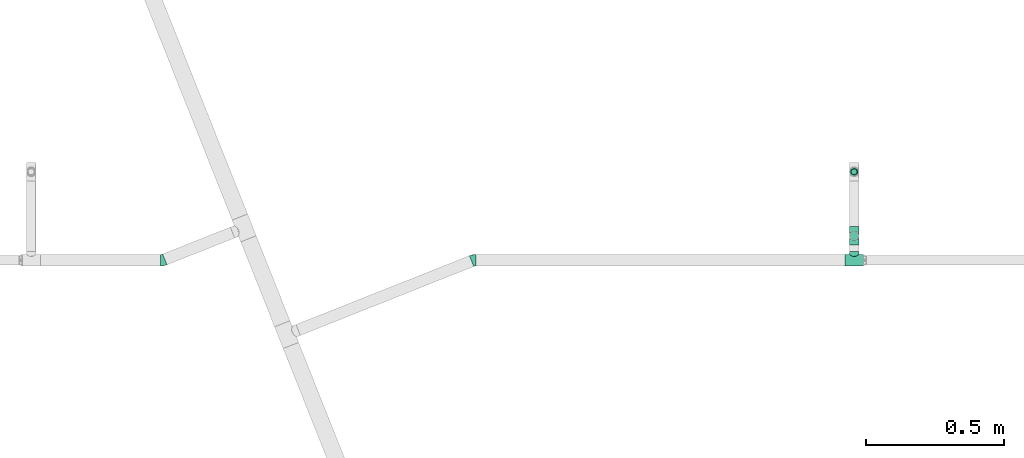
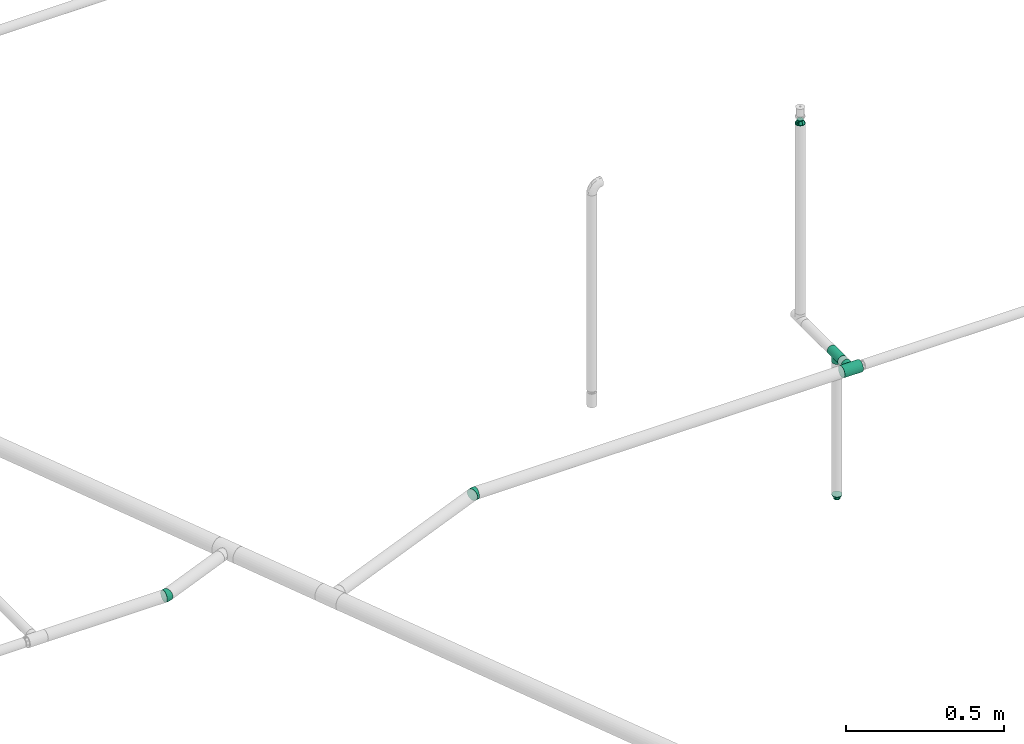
# One storey, part 36 of 94: 6 flow fittings.
"""IFC2X3 building model written with IfcOpenShell, lengths in millimetres."""

import ifcopenshell
import ifcopenshell.guid

model = None  # the IFC model being written
_history = None  # IfcOwnerHistory: only IFC2X3 demands one
_inside = {}  # id of a spatial element -> (the spatial element, [elements in it])
_under = {}  # id of a project, library or spatial element -> (it, [spatial elements below it])
_declared = {}  # id of a project -> (the project, [libraries it declares])
_typed = {}  # id of a type object -> (the type object, [elements of that type])
_made_of = {}  # id of a material, layer set ... -> (it, [elements and type objects made of it])


def new_model(schema):
    """Start an empty IFC model of exactly this schema.

    Asked for "IFC4X3", IfcOpenShell would pick the latest addendum, in which some entities
    have other attributes; the version numbers below select the first issue.
    IFC2X3 requires an IfcOwnerHistory on every rooted entity: one is made here for all.
    """
    global model, _history
    if schema == "IFC4X3":
        model = ifcopenshell.file(schema_version=(4, 3, 0, 0))
    else:
        model = ifcopenshell.file(schema=schema)
    _inside.clear()
    _under.clear()
    _declared.clear()
    _typed.clear()
    _made_of.clear()
    _history = None
    if model.schema == "IFC2X3":
        org = make("IfcOrganization", Name="unknown")
        user = make(
            "IfcPersonAndOrganization",
            ThePerson=make("IfcPerson", FamilyName="unknown"),
            TheOrganization=org,
        )
        app = make(
            "IfcApplication",
            ApplicationDeveloper=org,
            Version="unknown",
            ApplicationFullName="unknown",
            ApplicationIdentifier="unknown",
        )
        _history = make(
            "IfcOwnerHistory",
            OwningUser=user,
            OwningApplication=app,
            ChangeAction="ADDED",
            CreationDate=0,
        )
    return model


def make(cls, **values):
    """One entity of the class cls with the attributes given. An attribute that is None is left unset."""
    return model.create_entity(
        cls, **{name: value for name, value in values.items() if value is not None}
    )


def entity(cls, *values):
    """Any entity or typed value of the class cls, its attributes in the order of the schema. None: left unset."""
    e = model.create_entity(cls)
    for i, value in enumerate(values):
        if value is not None:
            e[i] = value
    return e


def rooted(cls, **values):
    """An entity with a GlobalId (a new one), such as an element, a storey or a relation."""
    return make(cls, GlobalId=ifcopenshell.guid.new(), OwnerHistory=_history, **values)


def si_unit(unit_type, name, prefix=None):
    """IfcSIUnit, for example si_unit("LENGTHUNIT", "METRE", prefix="MILLI")."""
    return make("IfcSIUnit", UnitType=unit_type, Prefix=prefix, Name=name)


def converted_unit(unit_type, name, factor, base, dimensions=None, offset=None):
    """IfcConversionBasedUnit, such as the inch: factor (a typed value) times the base unit."""
    return make(
        "IfcConversionBasedUnit"
        if offset is None
        else "IfcConversionBasedUnitWithOffset",
        ConversionOffset=offset,
        Dimensions=None
        if dimensions is None
        else entity("IfcDimensionalExponents", *dimensions),
        UnitType=unit_type,
        Name=name,
        ConversionFactor=make(
            "IfcMeasureWithUnit", ValueComponent=factor, UnitComponent=base
        ),
    )


def derived_unit(unit_type, elements):
    """IfcDerivedUnit: a product of units, each with its exponent."""
    return make(
        "IfcDerivedUnit",
        Elements=[
            make("IfcDerivedUnitElement", Unit=unit, Exponent=power)
            for unit, power in elements
        ],
        UnitType=unit_type,
    )


def assignment(units):
    """IfcUnitAssignment: the units of a project."""
    return None if units is None else make("IfcUnitAssignment", Units=units)


def point(xyz):
    """IfcCartesianPoint."""
    return None if xyz is None else make("IfcCartesianPoint", Coordinates=xyz)


def direction(xyz):
    """IfcDirection."""
    return None if xyz is None else make("IfcDirection", DirectionRatios=xyz)


def frame(location, z_axis=None, x_axis=None):
    """IfcAxis2Placement3D, a coordinate frame: its origin and axes. An axis left out is left unset."""
    return make(
        "IfcAxis2Placement3D",
        Location=point(location),
        Axis=direction(z_axis),
        RefDirection=direction(x_axis),
    )


def origin_with_axes():
    """The frame at (0, 0, 0) with the z axis (0, 0, 1) and the x axis (1, 0, 0) written out."""
    return frame((0.0, 0.0, 0.0), z_axis=(0.0, 0.0, 1.0), x_axis=(1.0, 0.0, 0.0))


def place(relative_to, where):
    """IfcLocalPlacement: puts the frame where relative to a parent placement (None: the world)."""
    return make(
        "IfcLocalPlacement", PlacementRelTo=relative_to, RelativePlacement=where
    )


def context(
    kind, dimensions, precision=None, world=None, true_north=None, identifier=None
):
    """IfcGeometricRepresentationContext, for example the 3D "Model" context."""
    return make(
        "IfcGeometricRepresentationContext",
        ContextIdentifier=identifier,
        ContextType=kind,
        CoordinateSpaceDimension=dimensions,
        Precision=precision,
        WorldCoordinateSystem=world,
        TrueNorth=true_north,
    )


def subcontext(parent, identifier, kind, view, scale=None):
    """IfcGeometricRepresentationSubContext, for example "Body" below "Model"."""
    return make(
        "IfcGeometricRepresentationSubContext",
        ContextIdentifier=identifier,
        ContextType=kind,
        ParentContext=parent,
        TargetScale=scale,
        TargetView=view,
    )


def project(units=None, contexts=None):
    """IfcProject with its units and contexts."""
    return rooted(
        "IfcProject",
        Name="project",
        RepresentationContexts=contexts,
        UnitsInContext=assignment(units),
    )


def spatial(cls, under=None, at=None, **own):
    """A site, building, storey or space (cls), placed at a placement, below another one or the project."""
    s = rooted(cls, ObjectPlacement=at, **own)
    if under is not None:
        _under.setdefault(under.id(), (under, []))[1].append(s)
    return s


def faces_of(points, faces, orient=None, outer=None):
    """IfcFace entities. A face is a list of loops; a loop is a list of indices into points, from 0.

    orient and outer hold one flag for each loop. By default every Orientation is true, the
    first loop of a face is its IfcFaceOuterBound and the others are IfcFaceBound.
    """
    made = []
    for i, loops in enumerate(faces):
        bounds = []
        for j, loop in enumerate(loops):
            is_outer = j == 0 if outer is None else outer[i][j]
            bounds.append(
                make(
                    "IfcFaceOuterBound" if is_outer else "IfcFaceBound",
                    Bound=make("IfcPolyLoop", Polygon=[points[k] for k in loop]),
                    Orientation=True if orient is None else orient[i][j],
                )
            )
        made.append(make("IfcFace", Bounds=bounds))
    return made


def open_shell(faces, orient=None, outer=None):
    """The faces of one IfcOpenShell. surface_model builds it on its shared points."""
    return ("IfcOpenShell", faces, orient, outer)


def surface_model(cls, points, shells):
    """IfcFaceBasedSurfaceModel or IfcShellBasedSurfaceModel (cls): surfaces that need not close."""
    shared = [point(p) for p in points]
    made = [make(c, CfsFaces=faces_of(shared, fs, o, b)) for c, fs, o, b in shells]
    if cls == "IfcFaceBasedSurfaceModel":
        return make(cls, FbsmFaces=made)
    return make(cls, SbsmBoundary=made)


def shape(context_of_items, identifier, shape_type, items):
    """IfcShapeRepresentation: the items that make up one representation, for example the "Body"."""
    return make(
        "IfcShapeRepresentation",
        ContextOfItems=context_of_items,
        RepresentationIdentifier=identifier,
        RepresentationType=shape_type,
        Items=items,
    )


def source(mapping_origin, context_of_items, identifier, shape_type, items):
    """IfcRepresentationMap: a shape defined once, which mapped items show again and again."""
    return make(
        "IfcRepresentationMap",
        MappingOrigin=mapping_origin,
        MappedRepresentation=shape(context_of_items, identifier, shape_type, items),
    )


def transform(
    local_origin,
    x_axis=None,
    y_axis=None,
    z_axis=None,
    scale=None,
    scale2=None,
    scale3=None,
    uniform=True,
):
    """IfcCartesianTransformationOperator3D, or its non-uniform kind. x_axis, y_axis, z_axis: its Axis1, 2, 3."""
    if uniform:
        return make(
            "IfcCartesianTransformationOperator3D",
            Axis1=direction(x_axis),
            Axis2=direction(y_axis),
            LocalOrigin=point(local_origin),
            Scale=scale,
            Axis3=direction(z_axis),
        )
    return make(
        "IfcCartesianTransformationOperator3DnonUniform",
        Axis1=direction(x_axis),
        Axis2=direction(y_axis),
        LocalOrigin=point(local_origin),
        Scale=scale,
        Axis3=direction(z_axis),
        Scale2=scale2,
        Scale3=scale3,
    )


def mapped(mapping_source, mapping_target):
    """IfcMappedItem: shows the shape of a source again, moved by a transform."""
    return make(
        "IfcMappedItem", MappingSource=mapping_source, MappingTarget=mapping_target
    )


def made_of(thing, what):
    """Note that an element or type object is made of a material, layer set ...; save() writes the relation."""
    if what is not None:
        _made_of.setdefault(what.id(), (what, []))[1].append(thing)
    return thing


def type_object(cls, material=None, **own):
    """A type object (cls), such as IfcWallType, which elements share."""
    return made_of(rooted(cls, **own), material)


def element(
    cls,
    number,
    at=None,
    inside=None,
    cuts=None,
    type_object=None,
    material=None,
    context=None,
    identifier="Body",
    shape_type=None,
    held_by="IfcProductDefinitionShape",
    body=None,
    shapes=None,
    **own,
):
    """One element of the class cls, such as IfcWall. Its Tag is "e" and its number.

    at: its placement. inside: the storey or other place that contains it. cuts: it is an
    opening in that element (IfcRelVoidsElement). A single representation is given by context,
    identifier, shape_type and body (its items); several are given by shapes. held_by: the class
    of the entity that holds the representations. save() writes the other relations.
    """
    e = rooted(cls, Tag="e%d" % number, ObjectPlacement=at, **own)
    if body is not None:
        shapes = [shape(context, identifier, shape_type, body)]
    if shapes is not None:
        e.Representation = make(held_by, Representations=shapes)
    if inside is not None:
        _inside.setdefault(inside.id(), (inside, []))[1].append(e)
    if cuts is not None:
        rooted(
            "IfcRelVoidsElement", RelatingBuildingElement=cuts, RelatedOpeningElement=e
        )
    if type_object is not None:
        _typed.setdefault(type_object.id(), (type_object, []))[1].append(e)
    return made_of(e, material)


def aggregate(whole, parts):
    """IfcRelAggregates: a whole, such as a stair, and the parts it consists of."""
    return rooted("IfcRelAggregates", RelatingObject=whole, RelatedObjects=parts)


def save(model, path):
    """Write the relations noted so far, then the file.

    IfcRelAggregates (storeys below a building ...), IfcRelContainedInSpatialStructure (elements
    in a storey), IfcRelDefinesByType, IfcRelAssociatesMaterial and IfcRelDeclares: one each for
    every whole, place, type object, material and project.
    """
    for whole, parts in _under.values():
        aggregate(whole, parts)
    for where, things in _inside.values():
        rooted(
            "IfcRelContainedInSpatialStructure",
            RelatedElements=things,
            RelatingStructure=where,
        )
    for kind, things in _typed.values():
        rooted("IfcRelDefinesByType", RelatedObjects=things, RelatingType=kind)
    for what, things in _made_of.values():
        rooted("IfcRelAssociatesMaterial", RelatedObjects=things, RelatingMaterial=what)
    for by, libraries in _declared.values():
        rooted("IfcRelDeclares", RelatingContext=by, RelatedDefinitions=libraries)
    model.write(path)


model = new_model("IFC2X3")

# Units and contexts
model_context = context("Model", 3, precision=0.01, world=frame((0.0, 4.29681676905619e-09, 0.0)), true_north=direction((4.01073788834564e-13, 1.0)))
plan_context = context("Plan", 3, precision=0.01, world=frame((0.0, 4.29681676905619e-09, 0.0)), true_north=direction((4.01073788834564e-13, 1.0)))
body_context = subcontext(model_context, "Body", "Model", "MODEL_VIEW")
ifc_project = project(units=[converted_unit("PLANEANGLEUNIT", "DEGREE", entity("IfcPositiveLengthMeasure", 0.0174532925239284), si_unit("PLANEANGLEUNIT", "RADIAN"), dimensions=[0, 0, 0, 0, 0, 0, 0]), si_unit("AREAUNIT", "SQUARE_METRE"), si_unit("LENGTHUNIT", "METRE", prefix="MILLI"), si_unit("MASSUNIT", "GRAM", prefix="KILO"), si_unit("POWERUNIT", "WATT"), si_unit("PRESSUREUNIT", "PASCAL", prefix="KILO"), si_unit("FORCEUNIT", "NEWTON", prefix="KILO"), si_unit("ELECTRICVOLTAGEUNIT", "VOLT"), si_unit("ELECTRICCURRENTUNIT", "AMPERE"), si_unit("THERMODYNAMICTEMPERATUREUNIT", "DEGREE_CELSIUS"), si_unit("TIMEUNIT", "SECOND"), si_unit("VOLUMEUNIT", "CUBIC_METRE"), derived_unit("LINEARVELOCITYUNIT", [(si_unit("LENGTHUNIT", "METRE"), 1), (si_unit("TIMEUNIT", "SECOND"), -1)]), derived_unit("VOLUMETRICFLOWRATEUNIT", [(si_unit("VOLUMEUNIT", "CUBIC_METRE"), 1), (si_unit("TIMEUNIT", "SECOND"), -1)]), derived_unit("THERMALTRANSMITTANCEUNIT", [(si_unit("POWERUNIT", "WATT"), 1), (si_unit("THERMODYNAMICTEMPERATUREUNIT", "KELVIN"), -1), (si_unit("AREAUNIT", "SQUARE_METRE"), -1)]), derived_unit("SOUNDPRESSUREUNIT", [(si_unit("PRESSUREUNIT", "PASCAL"), 1)])], contexts=[model_context, plan_context])

# Site, building, storey
site_placement = place(None, frame((0.0, -4.29681676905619e-09, 0.0), z_axis=(0.0, 0.0, 1.0), x_axis=(1.0, 0.0, 0.0)))
site = spatial("IfcSite", under=ifc_project, at=site_placement, CompositionType="ELEMENT")
building_placement = place(site_placement, frame((0.0, 4.29681676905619e-09, 0.0), z_axis=(0.0, 0.0, 1.0), x_axis=(1.0, 0.0, 0.0)))
building = spatial("IfcBuilding", under=site, at=building_placement, Name="mc-building", CompositionType="ELEMENT")
storey_placement = place(building_placement, frame((0.0, 0.0, 210900.0), z_axis=(0.0, 0.0, 1.0), x_axis=(1.0, 0.0, 0.0)))
storey = spatial("IfcBuildingStorey", under=building, at=storey_placement, Name="Nivå F", CompositionType="ELEMENT", Elevation=210900.0)

# Flow fittings
pipe_fitting_type_1 = type_object("IfcPipeFittingType", Name="magi_pipe_fe_tee_centric_90_NOR", PredefinedType="JUNCTION")
shared_shape_1 = source(origin_with_axes(), body_context, "Body", "SurfaceModel", [
    surface_model("IfcShellBasedSurfaceModel", [(-33.8, 0.0, -21.2), (-33.8, -5.48696, -20.47763), (-33.8, 5.48696, -20.47763), (-33.8, 10.6, -18.35974), (-33.8, 14.99066, -14.99066), (-33.8, -20.47763, 5.48696), (-33.8, 18.35974, -10.6), (-33.8, 10.6, 18.35974), (-33.8, -14.99066, -14.99066), (-33.8, -18.35974, -10.6), (-33.8, -10.6, -18.35974), (-33.8, -20.47763, -5.48696), (-33.8, -21.2, 0.0), (-33.8, 18.35974, 10.6), (-33.8, 20.47763, -5.48696), (-33.8, 20.47763, 5.48696), (-33.8, 21.2, 0.0), (-33.8, 14.99066, 14.99066), (-33.8, 5.48696, 20.47763), (-33.8, 0.0, 21.2), (-33.8, -18.35974, 10.6), (-33.8, -14.99066, 14.99066), (-33.8, -10.6, 18.35974), (-33.8, -5.48696, 20.47763), (33.8, 5.48696, -20.47763), (33.8, -5.48696, -20.47763), (33.8, 0.0, -21.2), (33.8, 14.99066, -14.99066), (33.8, 10.6, -18.35974), (33.8, 18.35974, -10.6), (33.8, 20.47763, -5.48696), (33.8, -21.2, 0.0), (33.8, -10.6, -18.35974), (33.8, -18.35974, -10.6), (33.8, -14.99066, -14.99066), (33.8, -20.47763, -5.48696), (33.8, -20.47763, 5.48696), (33.8, 21.2, 0.0), (33.8, 20.47763, 5.48696), (33.8, 18.35974, 10.6), (33.8, 10.6, 18.35974), (33.8, 14.99066, 14.99066), (33.8, 0.0, 21.2), (33.8, 5.48696, 20.47763), (33.8, -14.99066, 14.99066), (33.8, -18.35974, 10.6), (33.8, -10.6, 18.35974), (33.8, -5.48696, 20.47763), (16.9, -21.2, 0.0), (15.78624, -20.32327, 6.03364), (12.81343, -18.11115, 11.01935), (8.52479, -15.37862, 14.59239), (3.07939, -13.16482, 16.61708), (-16.9, -21.2, 0.0), (-15.78686, -20.32375, 6.032), (-8.52604, -15.37932, 14.59166), (-3.0848, -13.16609, 16.61608), (-12.81602, -18.11299, 11.01634), (3.07939, -13.16482, -16.61708), (12.81343, -18.11115, -11.01935), (8.52479, -15.37862, -14.59239), (15.78624, -20.32327, -6.03364), (-3.0848, -13.16609, -16.61608), (-8.52604, -15.37932, -14.59166), (-12.81602, -18.11299, -11.01634), (-15.78686, -20.32375, -6.032), (4.37404, -31.8, -16.32415), (-16.9, -31.8, 0.0), (0.0, -31.8, -16.9), (14.63583, -31.8, -8.45), (8.45, -31.8, -14.63583), (16.32415, -31.8, -4.37404), (11.9501, -31.8, -11.9501), (-11.9501, -31.8, -11.9501), (-8.45, -31.8, -14.63583), (-4.37404, -31.8, -16.32415), (-14.63583, -31.8, -8.45), (-16.32415, -31.8, -4.37404), (16.9, -31.8, 0.0), (8.45, -31.8, 14.63583), (16.32415, -31.8, 4.37404), (14.63583, -31.8, 8.45), (-8.45, -31.8, 14.63583), (11.9501, -31.8, 11.9501), (4.37404, -31.8, 16.32415), (-16.32415, -31.8, 4.37404), (-11.9501, -31.8, 11.9501), (-14.63583, -31.8, 8.45), (0.0, -31.8, 16.9), (-4.37404, -31.8, 16.32415), (-16.34343, -20.76188, 3.016), (16.34312, -20.76163, 3.01682), (-0.00271, -13.16546, 16.61658), (16.34312, -20.76163, -3.01682), (-0.00271, -13.16546, -16.61658), (-16.34343, -20.76188, -3.016)], [open_shell([[[0, 1, 2]], [[3, 2, 4]], [[5, 2, 1]], [[4, 2, 6]], [[6, 2, 7]], [[8, 9, 10]], [[1, 10, 9]], [[9, 11, 1]], [[12, 1, 11]], [[5, 1, 12]], [[13, 14, 6]], [[13, 15, 16]], [[6, 7, 13]], [[5, 7, 2]], [[17, 13, 7]], [[18, 7, 19]], [[20, 21, 5]], [[22, 5, 21]], [[23, 19, 22]], [[7, 5, 22]], [[22, 19, 7]], [[16, 14, 13]], [[24, 25, 26]], [[27, 24, 28]], [[29, 30, 24]], [[29, 24, 27]], [[31, 24, 30]], [[32, 33, 34]], [[33, 32, 25]], [[33, 31, 35]], [[31, 33, 25]], [[25, 24, 31]], [[30, 36, 31]], [[37, 38, 39]], [[37, 39, 40]], [[37, 40, 36]], [[40, 39, 41]], [[42, 40, 43]], [[36, 44, 45]], [[44, 36, 46]], [[46, 42, 47]], [[46, 36, 40]], [[40, 42, 46]], [[37, 36, 30]], [[31, 36, 48]], [[49, 48, 36]], [[36, 45, 49]], [[45, 44, 50]], [[51, 50, 44]], [[52, 51, 44]], [[44, 46, 52]], [[45, 50, 49]], [[53, 54, 5]], [[5, 12, 53]], [[54, 20, 5]], [[55, 56, 21]], [[20, 57, 21]], [[57, 20, 54]], [[21, 57, 55]], [[56, 22, 21]], [[52, 22, 56]], [[19, 47, 42]], [[23, 46, 47]], [[18, 42, 43]], [[39, 38, 15]], [[17, 40, 41]], [[13, 41, 39]], [[43, 40, 7]], [[16, 38, 37]], [[22, 46, 23]], [[23, 47, 19]], [[18, 19, 42]], [[43, 7, 18]], [[7, 40, 17]], [[13, 17, 41]], [[15, 13, 39]], [[38, 16, 15]], [[46, 22, 52]], [[6, 30, 29]], [[14, 37, 30]], [[4, 29, 27]], [[26, 25, 1]], [[2, 28, 24]], [[0, 24, 26]], [[27, 28, 3]], [[10, 25, 32]], [[16, 37, 14]], [[14, 30, 6]], [[4, 6, 29]], [[27, 3, 4]], [[3, 28, 2]], [[0, 2, 24]], [[1, 0, 26]], [[25, 10, 1]], [[32, 58, 10]], [[34, 59, 60]], [[59, 34, 33]], [[60, 58, 34]], [[34, 58, 32]], [[35, 31, 48]], [[35, 61, 33]], [[61, 35, 48]], [[33, 61, 59]], [[62, 63, 8]], [[8, 64, 9]], [[64, 8, 63]], [[62, 8, 10]], [[65, 53, 11]], [[65, 11, 9]], [[11, 53, 12]], [[65, 9, 64]], [[58, 62, 10]], [[66, 67, 68]], [[69, 66, 70]], [[69, 71, 66]], [[69, 70, 72]], [[67, 66, 71]], [[68, 73, 74]], [[74, 75, 68]], [[76, 67, 77]], [[73, 68, 76]], [[67, 76, 68]], [[71, 78, 67]], [[79, 78, 80]], [[79, 80, 81]], [[82, 67, 79]], [[79, 81, 83]], [[82, 79, 84]], [[85, 86, 87]], [[86, 85, 82]], [[82, 88, 89]], [[85, 67, 82]], [[84, 88, 82]], [[79, 67, 78]], [[85, 90, 67]], [[57, 87, 86]], [[85, 87, 54]], [[86, 82, 55]], [[85, 54, 90]], [[90, 53, 67]], [[54, 87, 57]], [[91, 49, 80]], [[55, 89, 56]], [[55, 57, 86]], [[88, 52, 92]], [[55, 82, 89]], [[52, 88, 84]], [[79, 51, 84]], [[50, 83, 81]], [[83, 51, 79]], [[81, 80, 49]], [[83, 50, 51]], [[51, 52, 84]], [[78, 91, 80]], [[49, 50, 81]], [[91, 78, 48]], [[88, 56, 89]], [[92, 56, 88]], [[71, 93, 78]], [[59, 69, 72]], [[71, 69, 61]], [[72, 70, 60]], [[93, 48, 78]], [[61, 69, 59]], [[60, 66, 58]], [[60, 59, 72]], [[68, 62, 94]], [[60, 70, 66]], [[95, 67, 53]], [[95, 65, 77]], [[71, 61, 93]], [[75, 62, 68]], [[65, 76, 77]], [[73, 76, 64]], [[68, 58, 66]], [[75, 63, 62]], [[63, 75, 74]], [[74, 73, 63]], [[63, 73, 64]], [[64, 76, 65]], [[67, 95, 77]], [[94, 58, 68]]])]),
])
flow_fitting_1_placement = place(storey_placement, frame((722201.53694, 437906.03424, 3600.0), z_axis=(0.0, 0.0, 1.0), x_axis=(-1.0, 0.0, 0.0)))
element("IfcFlowFitting", 1, at=flow_fitting_1_placement, inside=storey, type_object=pipe_fitting_type_1, Name="magi_pipe_fe_tee_centric_90_NOR", context=body_context, shape_type="MappedRepresentation", body=[
    mapped(shared_shape_1, transform((0.0, 0.0, 0.0), scale=1.0)),
])
pipe_fitting_type_2 = type_object("IfcPipeFittingType", Name="magi_pipe_fe_reducer_centric_short_NOR", PredefinedType="TRANSITION")
shared_shape_2 = source(origin_with_axes(), body_context, "Body", "SurfaceModel", [
    surface_model("IfcShellBasedSurfaceModel", [(14.4, 5.35, -9.26647), (14.4, 0.0, -10.7), (14.4, 2.76936, -10.33541), (14.4, 10.33541, -2.76936), (14.4, 7.56604, -7.56604), (14.4, -10.33541, -2.76936), (14.4, 9.26647, -5.35), (14.4, 0.0, 10.7), (14.4, -5.35, -9.26647), (14.4, -2.76936, -10.33541), (14.4, -7.56604, -7.56604), (14.4, -9.26647, -5.35), (14.4, 10.7, 0.0), (14.4, 10.33541, 2.76936), (14.4, 9.26647, 5.35), (14.4, 7.56604, 7.56604), (14.4, 2.76936, 10.33541), (14.4, 5.35, 9.26647), (14.4, -10.33541, 2.76936), (14.4, -7.56604, 7.56604), (14.4, -9.26647, 5.35), (14.4, -10.7, 0.0), (14.4, -2.76936, 10.33541), (14.4, -5.35, 9.26647), (12.4, 2.76936, 10.33541), (12.4, -10.33541, -2.76936), (12.4, 0.0, 10.7), (12.4, 5.35, 9.26647), (12.4, 7.56604, 7.56604), (12.4, 9.26647, 5.35), (12.4, 10.33541, 2.76936), (12.4, -10.33541, 2.76936), (12.4, -2.76936, 10.33541), (12.4, -7.56604, 7.56604), (12.4, -5.35, 9.26647), (12.4, -9.26647, 5.35), (12.4, -10.7, 0.0), (12.4, 10.33541, -2.76936), (12.4, 5.35, -9.26647), (12.4, 9.26647, -5.35), (12.4, 7.56604, -7.56604), (12.4, 2.76936, -10.33541), (12.4, -9.26647, -5.35), (12.4, -5.35, -9.26647), (12.4, -7.56604, -7.56604), (12.4, 0.0, -10.7), (12.4, -2.76936, -10.33541), (12.4, 10.7, 0.0), (-2.0, 11.9501, 11.9501), (-2.0, 0.0, 16.9), (-2.0, 4.37404, 16.32415), (-2.0, 8.45, 14.63583), (-2.0, 14.63583, 8.45), (-2.0, 16.32415, 4.37404), (-2.0, -16.32415, 4.37404), (-2.0, -8.45, 14.63583), (-2.0, -14.63583, 8.45), (-2.0, -11.9501, 11.9501), (-2.0, -4.37404, 16.32415), (-2.0, -16.32415, -4.37404), (-2.0, -16.9, 0.0), (-2.0, -8.45, -14.63583), (-2.0, 16.32415, -4.37404), (-2.0, 11.9501, -11.9501), (-2.0, 14.63583, -8.45), (-2.0, 8.45, -14.63583), (-2.0, 4.37404, -16.32415), (-2.0, 0.0, -16.9), (-2.0, -11.9501, -11.9501), (-2.0, -14.63583, -8.45), (-2.0, -4.37404, -16.32415), (-2.0, 16.9, 0.0), (0.0, 4.37404, -16.32415), (0.0, 8.45, -14.63583), (0.0, 11.9501, -11.9501), (0.0, 0.0, -16.9), (0.0, 16.32415, -4.37404), (0.0, 16.32415, 4.37404), (0.0, 14.63583, -8.45), (0.0, -8.45, -14.63583), (0.0, -4.37404, -16.32415), (0.0, -11.9501, -11.9501), (0.0, -16.32415, -4.37404), (0.0, -14.63583, -8.45), (0.0, -16.32415, 4.37404), (0.0, 16.9, 0.0), (0.0, 14.63583, 8.45), (0.0, 11.9501, 11.9501), (0.0, 4.37404, 16.32415), (0.0, 8.45, 14.63583), (0.0, 0.0, 16.9), (0.0, -14.63583, 8.45), (0.0, -16.9, 0.0), (0.0, -8.45, 14.63583), (0.0, -11.9501, 11.9501), (0.0, -4.37404, 16.32415), (12.4, 9.3625, -2.31662), (0.0, 14.42505, -5.97505), (0.0, 15.66253, -2.98753), (12.4, -6.6875, -6.94985), (0.0, -13.18758, -8.96258), (0.0, 2.98753, -15.66253), (12.4, 0.0, -9.26647), (12.4, 6.6875, -6.94985), (0.0, 8.96258, -13.18758), (12.4, -9.3625, -2.31662), (0.0, -15.66253, -2.98753), (0.0, -14.42505, -5.97505), (0.0, 5.97505, -14.42505), (0.0, -2.98753, -15.66253), (0.0, -8.96258, -13.18758), (0.0, 13.18758, -8.96258), (12.4, 8.025, -4.63324), (12.4, -2.675, -9.26647), (12.4, 2.675, -9.26647), (0.0, -5.97505, -14.42505), (12.4, -8.025, -4.63324), (12.4, -9.3625, 2.31662), (0.0, -14.42505, 5.97505), (0.0, -15.66253, 2.98753), (12.4, 6.6875, 6.94985), (0.0, 13.18758, 8.96258), (0.0, -2.98753, 15.66253), (12.4, 0.0, 9.26647), (12.4, -6.6875, 6.94985), (0.0, -8.96258, 13.18758), (12.4, 9.3625, 2.31662), (0.0, 15.66253, 2.98753), (0.0, 14.42505, 5.97505), (0.0, -5.97505, 14.42505), (0.0, 2.98753, 15.66253), (0.0, 8.96258, 13.18758), (0.0, -13.18758, 8.96258), (12.4, -8.025, 4.63324), (12.4, 2.675, 9.26647), (12.4, -2.675, 9.26647), (0.0, 5.97505, 14.42505), (12.4, 8.025, 4.63324)], [open_shell([[[0, 1, 2]], [[3, 0, 4]], [[5, 0, 3]], [[3, 4, 6]], [[7, 5, 3]], [[1, 8, 9]], [[1, 0, 8]], [[10, 5, 11]], [[5, 10, 8]], [[0, 5, 8]], [[3, 12, 13]], [[13, 14, 15]], [[13, 15, 16]], [[7, 3, 16]], [[16, 15, 17]], [[7, 18, 5]], [[18, 19, 20]], [[21, 5, 18]], [[19, 22, 23]], [[22, 19, 18]], [[7, 22, 18]], [[13, 16, 3]], [[24, 25, 26]], [[27, 25, 24]], [[28, 29, 30]], [[28, 25, 27]], [[31, 26, 25]], [[32, 33, 34]], [[33, 32, 31]], [[33, 31, 35]], [[32, 26, 31]], [[31, 25, 36]], [[30, 37, 28]], [[25, 28, 37]], [[38, 37, 39]], [[37, 38, 25]], [[38, 39, 40]], [[41, 25, 38]], [[42, 43, 44]], [[43, 42, 25]], [[43, 45, 46]], [[43, 25, 41]], [[41, 45, 43]], [[37, 30, 47]], [[25, 5, 36]], [[42, 11, 25]], [[8, 44, 43]], [[42, 44, 10]], [[9, 43, 46]], [[25, 11, 5]], [[5, 21, 36]], [[9, 8, 43]], [[10, 44, 8]], [[10, 11, 42]], [[1, 9, 46]], [[46, 45, 1]], [[41, 2, 45]], [[38, 0, 41]], [[6, 40, 39]], [[38, 40, 4]], [[3, 39, 37]], [[38, 4, 0]], [[0, 2, 41]], [[12, 3, 37]], [[6, 39, 3]], [[6, 4, 40]], [[47, 12, 37]], [[45, 2, 1]], [[30, 13, 47]], [[29, 14, 30]], [[17, 28, 27]], [[29, 28, 15]], [[16, 27, 24]], [[30, 14, 13]], [[13, 12, 47]], [[16, 17, 27]], [[15, 28, 17]], [[15, 14, 29]], [[7, 16, 24]], [[24, 26, 7]], [[32, 22, 26]], [[34, 23, 32]], [[20, 33, 35]], [[34, 33, 19]], [[18, 35, 31]], [[34, 19, 23]], [[23, 22, 32]], [[21, 18, 31]], [[20, 35, 18]], [[20, 19, 33]], [[36, 21, 31]], [[26, 22, 7]], [[48, 49, 50]], [[48, 50, 51]], [[48, 52, 53]], [[48, 53, 49]], [[49, 53, 54]], [[55, 56, 57]], [[55, 58, 49]], [[56, 55, 49]], [[49, 54, 56]], [[54, 59, 60]], [[54, 53, 61]], [[53, 62, 63]], [[63, 62, 64]], [[63, 65, 66]], [[61, 53, 63]], [[67, 63, 66]], [[59, 68, 69]], [[68, 59, 61]], [[61, 67, 70]], [[59, 54, 61]], [[63, 67, 61]], [[53, 71, 62]], [[72, 73, 74]], [[75, 72, 74]], [[74, 76, 77]], [[76, 74, 78]], [[74, 77, 79]], [[75, 79, 80]], [[75, 74, 79]], [[81, 82, 83]], [[82, 81, 79]], [[79, 84, 82]], [[77, 76, 85]], [[77, 86, 87]], [[77, 87, 88]], [[88, 84, 79]], [[88, 87, 89]], [[84, 88, 90]], [[90, 91, 84]], [[92, 82, 84]], [[91, 93, 94]], [[91, 90, 93]], [[93, 90, 95]], [[79, 77, 88]], [[59, 82, 60]], [[69, 83, 59]], [[79, 68, 61]], [[69, 68, 81]], [[80, 61, 70]], [[59, 83, 82]], [[82, 92, 60]], [[80, 79, 61]], [[81, 68, 79]], [[81, 83, 69]], [[75, 80, 70]], [[70, 67, 75]], [[66, 72, 67]], [[65, 73, 66]], [[78, 63, 64]], [[65, 63, 74]], [[76, 64, 62]], [[65, 74, 73]], [[73, 72, 66]], [[85, 76, 62]], [[78, 64, 76]], [[78, 74, 63]], [[71, 85, 62]], [[67, 72, 75]], [[53, 77, 71]], [[52, 86, 53]], [[89, 48, 51]], [[52, 48, 87]], [[88, 51, 50]], [[53, 86, 77]], [[77, 85, 71]], [[88, 89, 51]], [[87, 48, 89]], [[87, 86, 52]], [[90, 88, 50]], [[50, 49, 90]], [[58, 95, 49]], [[55, 93, 58]], [[91, 57, 56]], [[55, 57, 94]], [[84, 56, 54]], [[55, 94, 93]], [[93, 95, 58]], [[92, 84, 54]], [[91, 56, 84]], [[91, 94, 57]], [[60, 92, 54]], [[49, 95, 90]], [[27, 34, 47]], [[47, 34, 43]], [[43, 38, 47]], [[43, 34, 36]], [[90, 87, 94]], [[92, 94, 87]], [[87, 74, 92]], [[75, 92, 74]], [[81, 92, 75]], [[74, 87, 85]], [[96, 97, 98]], [[81, 99, 100]], [[101, 102, 75]], [[98, 85, 47]], [[74, 103, 104]], [[104, 103, 38]], [[105, 106, 107]], [[38, 108, 104]], [[102, 109, 75]], [[110, 99, 81]], [[47, 96, 98]], [[103, 111, 112]], [[109, 102, 113]], [[36, 92, 106]], [[102, 101, 114]], [[110, 115, 43]], [[96, 112, 97]], [[107, 116, 105]], [[36, 106, 105]], [[113, 115, 109]], [[43, 115, 113]], [[116, 107, 100]], [[108, 38, 114]], [[111, 103, 74]], [[111, 97, 112]], [[99, 110, 43]], [[116, 100, 99]], [[101, 108, 114]], [[117, 118, 119]], [[87, 120, 121]], [[122, 123, 90]], [[119, 92, 36]], [[94, 124, 125]], [[125, 124, 34]], [[126, 127, 128]], [[34, 129, 125]], [[123, 130, 90]], [[131, 120, 87]], [[36, 117, 119]], [[124, 132, 133]], [[130, 123, 134]], [[47, 85, 127]], [[123, 122, 135]], [[131, 136, 27]], [[117, 133, 118]], [[128, 137, 126]], [[47, 127, 126]], [[134, 136, 130]], [[27, 136, 134]], [[137, 128, 121]], [[129, 34, 135]], [[132, 124, 94]], [[132, 118, 133]], [[120, 131, 27]], [[137, 121, 120]], [[122, 129, 135]]])]),
])
for number, where, z_axis, x_axis, name in (
    (2, (722201.53694, 438227.23424, 4357.64799999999), (-1.0, 0.0, 0.0), (0.0, 0.0, 1.0), "magi_pipe_fe_reducer_centric_short_NOR"),
    (3, (722201.53694, 437994.46077, 3059.35200000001), (-1.0, 0.0, 0.0), (0.0, 0.0, -1.0), "magi_pipe_fe_reducer_centric_short_NOR"),
):
    element("IfcFlowFitting", number, at=place(storey_placement, frame(where, z_axis=z_axis, x_axis=x_axis)), inside=storey, type_object=pipe_fitting_type_2, Name=name, context=body_context, shape_type="MappedRepresentation", body=[
        mapped(shared_shape_2, transform((0.0, 0.0, 0.0), scale=1.0)),
    ])
shared_shape_3 = source(origin_with_axes(), body_context, "Body", "SurfaceModel", [
    surface_model("IfcShellBasedSurfaceModel", [(-33.8, 4.37404, -16.32415), (-33.8, 0.0, -16.9), (-33.8, 16.32415, -4.37404), (-33.8, 8.45, -14.63583), (-33.8, 11.9501, -11.9501), (-33.8, 14.63583, -8.45), (-33.8, -16.9, 0.0), (-33.8, -11.9501, -11.9501), (-33.8, -14.63583, -8.45), (-33.8, -8.45, -14.63583), (-33.8, -4.37404, -16.32415), (-33.8, -16.32415, -4.37404), (-33.8, 14.63583, 8.45), (-33.8, 16.32415, 4.37404), (-33.8, -8.45, 14.63583), (-33.8, 8.45, 14.63583), (-33.8, 11.9501, 11.9501), (-33.8, 4.37404, 16.32415), (-33.8, 0.0, 16.9), (-33.8, -11.9501, 11.9501), (-33.8, -14.63583, 8.45), (-33.8, -16.32415, 4.37404), (-33.8, -4.37404, 16.32415), (-33.8, 16.9, 0.0), (33.8, 4.37404, -16.32415), (33.8, -16.9, 0.0), (33.8, 0.0, -16.9), (33.8, 14.63583, -8.45), (33.8, 8.45, -14.63583), (33.8, 16.32415, -4.37404), (33.8, 11.9501, -11.9501), (33.8, -16.32415, 4.37404), (33.8, -8.45, -14.63583), (33.8, -4.37404, -16.32415), (33.8, -11.9501, -11.9501), (33.8, -14.63583, -8.45), (33.8, -16.32415, -4.37404), (33.8, 16.32415, 4.37404), (33.8, 8.45, 14.63583), (33.8, 14.63583, 8.45), (33.8, 11.9501, 11.9501), (33.8, -8.45, 14.63583), (33.8, 4.37404, 16.32415), (33.8, -14.63583, 8.45), (33.8, -11.9501, 11.9501), (33.8, 0.0, 16.9), (33.8, -4.37404, 16.32415), (33.8, 16.9, 0.0), (16.28698, -16.28698, 4.51047), (16.9, -16.9, 0.0), (14.62704, -14.62704, 8.4652), (9.47213, -9.47213, 13.99602), (12.26343, -12.26343, 11.62834), (-16.9, -16.9, 0.0), (-16.28698, -16.28698, 4.51047), (-14.62704, -14.62704, 8.4652), (-12.26343, -12.26343, 11.62834), (-9.47213, -9.47213, 13.99602), (-6.42894, -6.42894, 15.62942), (6.42894, -6.42894, 15.62942), (3.24522, -3.24522, 16.58549), (0.0, 0.0, 16.9), (-3.24522, -3.24522, 16.58549), (3.24522, -3.24522, -16.58549), (0.0, 0.0, -16.9), (-3.24522, -3.24522, -16.58549), (-6.42894, -6.42894, -15.62942), (6.42894, -6.42894, -15.62942), (9.47213, -9.47213, -13.99602), (12.26343, -12.26343, -11.62834), (14.62704, -14.62704, -8.4652), (16.28698, -16.28698, -4.51047), (-9.47213, -9.47213, -13.99602), (-12.26343, -12.26343, -11.62834), (-16.28698, -16.28698, -4.51047), (-14.62704, -14.62704, -8.4652), (4.37404, -25.35, -16.32415), (-16.9, -25.35, 0.0), (0.0, -25.35, -16.9), (14.63583, -25.35, -8.45), (8.45, -25.35, -14.63583), (16.32415, -25.35, -4.37404), (11.9501, -25.35, -11.9501), (-11.9501, -25.35, -11.9501), (-8.45, -25.35, -14.63583), (-4.37404, -25.35, -16.32415), (-14.63583, -25.35, -8.45), (-16.32415, -25.35, -4.37404), (16.9, -25.35, 0.0), (8.45, -25.35, 14.63583), (16.32415, -25.35, 4.37404), (14.63583, -25.35, 8.45), (-8.45, -25.35, 14.63583), (11.9501, -25.35, 11.9501), (4.37404, -25.35, 16.32415), (-16.32415, -25.35, 4.37404), (-11.9501, -25.35, 11.9501), (-14.63583, -25.35, 8.45), (0.0, -25.35, 16.9), (-4.37404, -25.35, 16.32415)], [open_shell([[[0, 1, 2]], [[3, 0, 4]], [[0, 2, 5]], [[4, 0, 5]], [[6, 2, 1]], [[7, 8, 9]], [[1, 10, 9]], [[11, 6, 8]], [[1, 9, 8]], [[1, 8, 6]], [[6, 12, 2]], [[12, 13, 2]], [[14, 12, 6]], [[12, 14, 15]], [[16, 12, 15]], [[17, 15, 18]], [[19, 14, 20]], [[21, 20, 14]], [[22, 18, 14]], [[14, 6, 21]], [[14, 18, 15]], [[23, 2, 13]], [[24, 25, 26]], [[27, 24, 28]], [[27, 29, 24]], [[27, 28, 30]], [[31, 25, 24]], [[26, 32, 33]], [[26, 34, 32]], [[35, 25, 36]], [[35, 34, 26]], [[25, 35, 26]], [[24, 29, 31]], [[29, 37, 38]], [[38, 37, 39]], [[38, 31, 29]], [[38, 39, 40]], [[41, 38, 42]], [[43, 41, 44]], [[41, 43, 31]], [[41, 45, 46]], [[41, 31, 38]], [[42, 45, 41]], [[29, 47, 37]], [[31, 43, 48]], [[25, 31, 49]], [[49, 31, 48]], [[43, 50, 48]], [[44, 41, 51]], [[50, 43, 52]], [[51, 52, 44]], [[52, 43, 44]], [[53, 54, 21]], [[53, 21, 6]], [[21, 54, 20]], [[54, 55, 20]], [[56, 57, 19]], [[19, 20, 56]], [[19, 57, 14]], [[56, 20, 55]], [[14, 57, 58]], [[51, 41, 59]], [[60, 45, 61]], [[59, 46, 60]], [[46, 59, 41]], [[60, 46, 45]], [[61, 45, 42]], [[39, 37, 13]], [[16, 38, 40]], [[12, 40, 39]], [[42, 38, 15]], [[23, 37, 47]], [[62, 61, 18]], [[62, 22, 58]], [[22, 62, 18]], [[58, 22, 14]], [[61, 17, 18]], [[42, 17, 61]], [[15, 17, 42]], [[15, 38, 16]], [[12, 16, 40]], [[13, 12, 39]], [[37, 23, 13]], [[5, 27, 30]], [[23, 47, 29]], [[30, 28, 3]], [[27, 2, 29]], [[26, 33, 63]], [[26, 64, 24]], [[64, 26, 63]], [[28, 24, 0]], [[64, 0, 24]], [[4, 30, 3]], [[2, 27, 5]], [[5, 30, 4]], [[2, 23, 29]], [[65, 66, 10]], [[1, 0, 64]], [[1, 65, 10]], [[66, 9, 10]], [[0, 3, 28]], [[1, 64, 65]], [[63, 33, 67]], [[32, 34, 68]], [[69, 68, 34]], [[35, 70, 69]], [[69, 34, 35]], [[32, 68, 67]], [[36, 25, 49]], [[36, 71, 35]], [[71, 36, 49]], [[35, 71, 70]], [[72, 9, 66]], [[72, 7, 9]], [[7, 72, 73]], [[7, 73, 8]], [[74, 53, 11]], [[75, 74, 8]], [[74, 11, 8]], [[11, 53, 6]], [[75, 8, 73]], [[32, 67, 33]], [[76, 77, 78]], [[79, 76, 80]], [[79, 81, 76]], [[79, 80, 82]], [[77, 76, 81]], [[78, 83, 84]], [[84, 85, 78]], [[86, 77, 87]], [[83, 78, 86]], [[77, 86, 78]], [[81, 88, 77]], [[89, 88, 90]], [[89, 90, 91]], [[92, 77, 89]], [[89, 91, 93]], [[92, 89, 94]], [[95, 96, 97]], [[96, 95, 92]], [[92, 98, 99]], [[95, 77, 92]], [[94, 98, 92]], [[89, 77, 88]], [[77, 95, 53]], [[54, 53, 95]], [[97, 96, 56]], [[96, 92, 57]], [[95, 97, 54]], [[58, 92, 99]], [[55, 54, 97]], [[56, 55, 97]], [[58, 57, 92]], [[98, 61, 62]], [[58, 99, 62]], [[56, 96, 57]], [[62, 99, 98]], [[94, 60, 98]], [[89, 59, 94]], [[91, 90, 48]], [[52, 93, 91]], [[93, 51, 89]], [[49, 90, 88]], [[59, 60, 94]], [[51, 59, 89]], [[49, 48, 90]], [[50, 52, 91]], [[48, 50, 91]], [[51, 93, 52]], [[98, 60, 61]], [[88, 81, 49]], [[71, 49, 81]], [[79, 82, 69]], [[82, 80, 68]], [[81, 79, 71]], [[67, 80, 76]], [[70, 71, 79]], [[69, 70, 79]], [[67, 68, 80]], [[78, 64, 63]], [[67, 76, 63]], [[69, 82, 68]], [[63, 76, 78]], [[85, 65, 78]], [[84, 66, 85]], [[86, 87, 74]], [[86, 73, 83]], [[72, 84, 83]], [[53, 87, 77]], [[66, 65, 85]], [[72, 66, 84]], [[53, 74, 87]], [[75, 73, 86]], [[74, 75, 86]], [[72, 83, 73]], [[78, 65, 64]]])]),
])
flow_fitting_2_placement = place(storey_placement, frame((722201.53694, 437994.46077, 3600.0), z_axis=(-1.0, 0.0, 0.0), x_axis=(0.0, -1.0, 0.0)))
element("IfcFlowFitting", 4, at=flow_fitting_2_placement, inside=storey, type_object=pipe_fitting_type_1, Name="magi_pipe_fe_tee_centric_90_NOR", context=body_context, shape_type="MappedRepresentation", body=[
    mapped(shared_shape_3, transform((0.0, 0.0, 0.0), scale=1.0)),
])
pipe_fitting_type_3 = type_object("IfcPipeFittingType", Name="magi_pipe_fe_elbow_short_001", PredefinedType="BEND")
shared_shape_4 = source(origin_with_axes(), body_context, "Body", "SurfaceModel", [
    surface_model("IfcShellBasedSurfaceModel", [(-8.11962, 10.6, -18.35974), (-8.11962, 5.48696, -20.47763), (-8.11962, 0.0, -21.2), (-8.11962, 14.99066, -14.99066), (-8.11962, 20.47763, -5.48696), (-8.11962, 18.35974, -10.6), (-8.11962, -14.99066, 14.99066), (-8.11962, -21.2, 0.0), (-8.11962, -10.6, -18.35974), (-8.11962, -14.99066, -14.99066), (-8.11962, -5.48696, -20.47763), (-8.11962, -20.47763, -5.48696), (-8.11962, -18.35974, -10.6), (-8.11962, 10.6, 18.35974), (-8.11962, 20.47763, 5.48696), (-8.11962, 18.35974, 10.6), (-8.11962, 14.99066, 14.99066), (-8.11962, 0.0, 21.2), (-8.11962, 5.48696, 20.47763), (-8.11962, -20.47763, 5.48696), (-8.11962, -18.35974, 10.6), (-8.11962, -10.6, 18.35974), (-8.11962, -5.48696, 20.47763), (-8.11962, 21.2, 0.0), (7.54516, 2.99981, -21.2), (5.51799, 8.09857, -20.47763), (3.62896, 12.84986, -18.35974), (14.32821, -14.06097, -10.6), (2.00682, 16.92988, -14.99066), (0.76211, 20.06059, -10.6), (-0.02035, 22.02864, -5.48696), (11.46135, -6.85023, -18.35974), (13.08349, -10.93025, -14.99066), (9.57233, -2.09894, -20.47763), (15.37755, -16.70028, 0.0), (15.11067, -16.02901, -5.48696), (15.11067, -16.02901, 5.48696), (3.62896, 12.84986, 18.35974), (-0.28723, 22.69991, 0.0), (-0.02035, 22.02864, 5.48696), (0.76211, 20.06059, 10.6), (2.00682, 16.92988, 14.99066), (13.08349, -10.93025, 14.99066), (5.51799, 8.09857, 20.47763), (14.32821, -14.06097, 10.6), (11.46135, -6.85023, 18.35974), (7.54516, 2.99981, 21.2), (9.57233, -2.09894, 20.47763), (2.32577, -12.14496, 16.63979), (2.25529, -16.08059, 12.67487), (3.56238, -18.60247, 7.80501), (1.42809, -7.45735, 19.48063), (0.42243, -2.20591, 20.9843), (-0.62216, 3.24888, 21.0476), (-4.13227, 21.57835, 0.0), (0.40328, -20.24732, 3.97289), (3.84245, -20.06494, 0.0), (0.42243, -2.20591, -20.9843), (1.42809, -7.45735, -19.48063), (3.84528, -15.7761, -12.67487), (3.56238, -18.60247, -7.80501), (-0.62216, 3.24888, -21.0476), (2.32577, -12.14496, -16.63979), (7.10567, -18.96381, -3.97289)], [open_shell([[[0, 1, 2]], [[3, 0, 2]], [[4, 5, 3]], [[2, 4, 3]], [[6, 2, 7]], [[8, 9, 10]], [[9, 2, 10]], [[11, 7, 12]], [[12, 2, 9]], [[12, 7, 2]], [[6, 4, 2]], [[13, 14, 4]], [[15, 14, 16]], [[13, 4, 6]], [[16, 14, 13]], [[13, 17, 18]], [[19, 20, 7]], [[7, 20, 6]], [[21, 22, 6]], [[17, 6, 22]], [[6, 17, 13]], [[23, 4, 14]], [[24, 25, 26]], [[27, 24, 26]], [[28, 29, 30]], [[28, 30, 26]], [[27, 26, 30]], [[31, 27, 32]], [[31, 33, 24]], [[27, 34, 35]], [[31, 24, 27]], [[27, 36, 34]], [[27, 30, 36]], [[37, 38, 39]], [[37, 39, 40]], [[38, 37, 36]], [[37, 40, 41]], [[42, 37, 43]], [[36, 42, 44]], [[36, 37, 42]], [[45, 46, 47]], [[46, 45, 42]], [[43, 46, 42]], [[38, 36, 30]], [[48, 6, 49]], [[21, 6, 48]], [[6, 20, 49]], [[36, 44, 50]], [[20, 50, 49]], [[22, 21, 51]], [[48, 51, 21]], [[17, 22, 52]], [[17, 53, 18]], [[44, 49, 50]], [[50, 20, 19]], [[42, 45, 48]], [[15, 16, 40]], [[13, 41, 16]], [[47, 46, 52]], [[51, 52, 22]], [[46, 43, 53]], [[54, 14, 39]], [[55, 50, 19]], [[54, 23, 14]], [[39, 14, 15]], [[7, 55, 19]], [[37, 13, 18]], [[52, 53, 17]], [[7, 56, 55]], [[45, 47, 51]], [[52, 51, 47]], [[45, 51, 48]], [[53, 52, 46]], [[42, 48, 49]], [[42, 49, 44]], [[56, 34, 36]], [[40, 39, 15]], [[38, 54, 39]], [[37, 18, 43]], [[13, 37, 41]], [[40, 16, 41]], [[18, 53, 43]], [[36, 50, 55]], [[36, 55, 56]], [[2, 57, 10]], [[58, 57, 33]], [[12, 59, 60]], [[2, 1, 61]], [[28, 3, 5]], [[62, 58, 31]], [[3, 28, 0]], [[63, 60, 35]], [[4, 30, 5]], [[32, 27, 59]], [[57, 61, 24]], [[0, 25, 1]], [[56, 7, 11]], [[11, 60, 63]], [[62, 9, 8]], [[11, 63, 56]], [[11, 12, 60]], [[12, 9, 59]], [[58, 8, 10]], [[4, 23, 54]], [[54, 38, 30]], [[58, 10, 57]], [[30, 29, 5]], [[28, 5, 29]], [[9, 62, 59]], [[0, 26, 25]], [[62, 8, 58]], [[27, 60, 59]], [[0, 28, 26]], [[57, 2, 61]], [[24, 61, 25]], [[58, 33, 31]], [[25, 61, 1]], [[34, 63, 35]], [[62, 31, 32]], [[27, 35, 60]], [[34, 56, 63]], [[32, 59, 62]], [[33, 57, 24]], [[4, 54, 30]]])]),
])
for number, where, z_axis, x_axis, name in (
    (5, (720821.0277, 437906.03424, 3600.0), (0.0, 0.0, 1.0), (-1.0, 0.0, 0.0), "magi_pipe_fe_elbow_short_001"),
    (6, (719693.48481, 437906.03424, 3600.0), (0.0, 0.0, 1.0), (1.0, 0.0, 0.0), "magi_pipe_fe_elbow_short_001"),
):
    element("IfcFlowFitting", number, at=place(storey_placement, frame(where, z_axis=z_axis, x_axis=x_axis)), inside=storey, type_object=pipe_fitting_type_3, Name=name, context=body_context, shape_type="MappedRepresentation", body=[
        mapped(shared_shape_4, transform((0.0, 0.0, 0.0), scale=1.0)),
    ])

save(model, "model.ifc")
